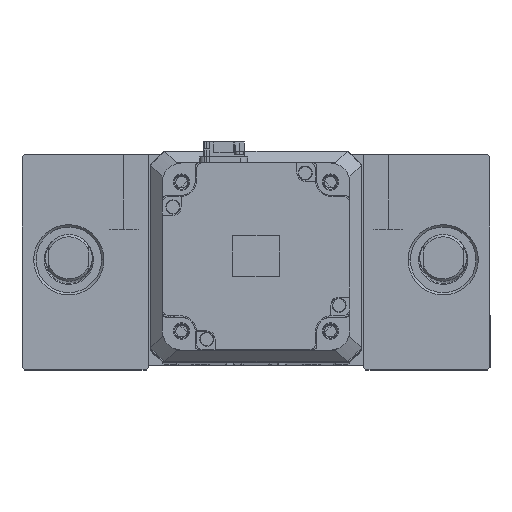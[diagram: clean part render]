
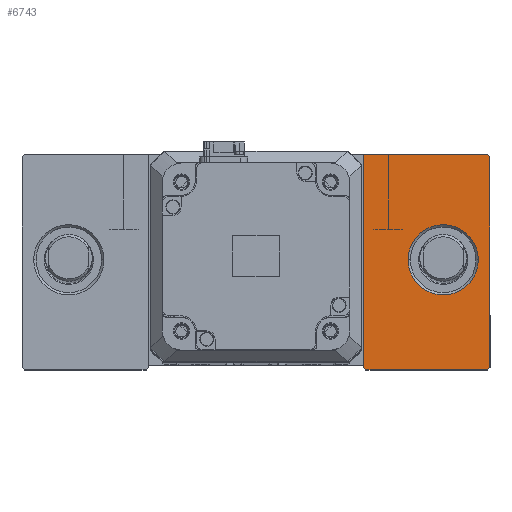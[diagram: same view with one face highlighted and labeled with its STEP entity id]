
A CAD part, top view. The second image highlights one B-rep face of the part: STEP entity #6743.
In plain terms, the highlighted planar face has unit normal (0, 0, 1).
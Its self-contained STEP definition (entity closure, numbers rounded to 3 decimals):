
#46 = DIRECTION ( 'NONE',  ( 0., 1., 0. ) ) ;
#623 = CARTESIAN_POINT ( 'NONE',  ( 0., 0., 35. ) ) ;
#1026 = VECTOR ( 'NONE', #31934, 1000. ) ;
#2392 = FACE_OUTER_BOUND ( 'NONE', #21754, .T. ) ;
#2482 = VECTOR ( 'NONE', #49218, 1000. ) ;
#2662 = VECTOR ( 'NONE', #9560, 1000. ) ;
#3491 = EDGE_CURVE ( 'NONE', #54902, #52917, #30535, .T. ) ;
#3881 = VECTOR ( 'NONE', #53363, 1000. ) ;
#4624 = ORIENTED_EDGE ( 'NONE', *, *, #53390, .T. ) ;
#4959 = CARTESIAN_POINT ( 'NONE',  ( 100., -46., 35. ) ) ;
#6365 = CARTESIAN_POINT ( 'NONE',  ( 46., 45., 35. ) ) ;
#6743 = ADVANCED_FACE ( 'NONE', ( #47784, #2392 ), #41997, .T. ) ;
#6754 = VERTEX_POINT ( 'NONE', #46492 ) ;
#6920 = DIRECTION ( 'NONE',  ( 0.707, 0.707, 0. ) ) ;
#7756 = VECTOR ( 'NONE', #6920, 1000. ) ;
#9560 = DIRECTION ( 'NONE',  ( 0.707, -0.707, 0. ) ) ;
#10157 = EDGE_LOOP ( 'NONE', ( #55074, #20877 ) ) ;
#10777 = CARTESIAN_POINT ( 'NONE',  ( 72., 72., 35. ) ) ;
#11042 = VERTEX_POINT ( 'NONE', #34338 ) ;
#12165 = CARTESIAN_POINT ( 'NONE',  ( 0., 0., 35. ) ) ;
#12345 = DIRECTION ( 'NONE',  ( 0., 0., 1. ) ) ;
#12566 = ORIENTED_EDGE ( 'NONE', *, *, #15618, .T. ) ;
#12661 = VERTEX_POINT ( 'NONE', #23385 ) ;
#13996 = LINE ( 'NONE', #623, #2662 ) ;
#15260 = ORIENTED_EDGE ( 'NONE', *, *, #50606, .T. ) ;
#15618 = EDGE_CURVE ( 'NONE', #20587, #40279, #55102, .T. ) ;
#16816 = DIRECTION ( 'NONE',  ( 0., 0., -1. ) ) ;
#17868 = LINE ( 'NONE', #44543, #3881 ) ;
#18043 = ORIENTED_EDGE ( 'NONE', *, *, #25843, .T. ) ;
#18550 = ORIENTED_EDGE ( 'NONE', *, *, #47390, .T. ) ;
#19414 = LINE ( 'NONE', #36024, #29457 ) ;
#19870 = CARTESIAN_POINT ( 'NONE',  ( 100., 44., 35. ) ) ;
#20431 = VERTEX_POINT ( 'NONE', #24094 ) ;
#20587 = VERTEX_POINT ( 'NONE', #42130 ) ;
#20877 = ORIENTED_EDGE ( 'NONE', *, *, #48720, .T. ) ;
#21313 = CARTESIAN_POINT ( 'NONE',  ( 100., 45., 35. ) ) ;
#21754 = EDGE_LOOP ( 'NONE', ( #12566, #15260, #42242, #4624, #35983, #18043, #18550 ) ) ;
#21947 = CIRCLE ( 'NONE', #51301, 15. ) ;
#22471 = EDGE_CURVE ( 'NONE', #49183, #6754, #17868, .T. ) ;
#23385 = CARTESIAN_POINT ( 'NONE',  ( 99., 45., 35. ) ) ;
#23466 = DIRECTION ( 'NONE',  ( 0., 0., -1. ) ) ;
#24094 = CARTESIAN_POINT ( 'NONE',  ( 95., 0., 35. ) ) ;
#24250 = AXIS2_PLACEMENT_3D ( 'NONE', #12165, #12345, #42172 ) ;
#25198 = LINE ( 'NONE', #10777, #2482 ) ;
#25813 = EDGE_CURVE ( 'NONE', #20431, #11042, #49229, .T. ) ;
#25843 = EDGE_CURVE ( 'NONE', #52917, #12661, #25198, .T. ) ;
#27436 = DIRECTION ( 'NONE',  ( -1., 0., 0. ) ) ;
#29457 = VECTOR ( 'NONE', #27436, 1000. ) ;
#30535 = LINE ( 'NONE', #21313, #41891 ) ;
#31934 = DIRECTION ( 'NONE',  ( 0., -1., 0. ) ) ;
#34338 = CARTESIAN_POINT ( 'NONE',  ( 65., 0., 35. ) ) ;
#35983 = ORIENTED_EDGE ( 'NONE', *, *, #3491, .T. ) ;
#36024 = CARTESIAN_POINT ( 'NONE',  ( 46., 45., 35. ) ) ;
#36776 = CARTESIAN_POINT ( 'NONE',  ( 73., -73., 35. ) ) ;
#37335 = CARTESIAN_POINT ( 'NONE',  ( 47., -47., 35. ) ) ;
#40279 = VERTEX_POINT ( 'NONE', #40521 ) ;
#40521 = CARTESIAN_POINT ( 'NONE',  ( 46., -46., 35. ) ) ;
#41800 = LINE ( 'NONE', #36776, #7756 ) ;
#41891 = VECTOR ( 'NONE', #46, 1000. ) ;
#41997 = PLANE ( 'NONE',  #24250 ) ;
#42130 = CARTESIAN_POINT ( 'NONE',  ( 46., 45., 35. ) ) ;
#42172 = DIRECTION ( 'NONE',  ( 1., 0., 0. ) ) ;
#42242 = ORIENTED_EDGE ( 'NONE', *, *, #22471, .T. ) ;
#42396 = CARTESIAN_POINT ( 'NONE',  ( 80., 0., 35. ) ) ;
#44110 = AXIS2_PLACEMENT_3D ( 'NONE', #49032, #23466, #53335 ) ;
#44543 = CARTESIAN_POINT ( 'NONE',  ( 46., -47., 35. ) ) ;
#46492 = CARTESIAN_POINT ( 'NONE',  ( 99., -47., 35. ) ) ;
#46698 = DIRECTION ( 'NONE',  ( 1., 0., 0. ) ) ;
#47390 = EDGE_CURVE ( 'NONE', #12661, #20587, #19414, .T. ) ;
#47784 = FACE_BOUND ( 'NONE', #10157, .T. ) ;
#48720 = EDGE_CURVE ( 'NONE', #11042, #20431, #21947, .T. ) ;
#49032 = CARTESIAN_POINT ( 'NONE',  ( 80., 0., 35. ) ) ;
#49183 = VERTEX_POINT ( 'NONE', #37335 ) ;
#49218 = DIRECTION ( 'NONE',  ( -0.707, 0.707, 0. ) ) ;
#49229 = CIRCLE ( 'NONE', #44110, 15. ) ;
#50606 = EDGE_CURVE ( 'NONE', #40279, #49183, #13996, .T. ) ;
#51301 = AXIS2_PLACEMENT_3D ( 'NONE', #42396, #16816, #46698 ) ;
#52917 = VERTEX_POINT ( 'NONE', #19870 ) ;
#53335 = DIRECTION ( 'NONE',  ( 1., 0., 0. ) ) ;
#53363 = DIRECTION ( 'NONE',  ( 1., 0., 0. ) ) ;
#53390 = EDGE_CURVE ( 'NONE', #6754, #54902, #41800, .T. ) ;
#54902 = VERTEX_POINT ( 'NONE', #4959 ) ;
#55074 = ORIENTED_EDGE ( 'NONE', *, *, #25813, .T. ) ;
#55102 = LINE ( 'NONE', #6365, #1026 ) ;
